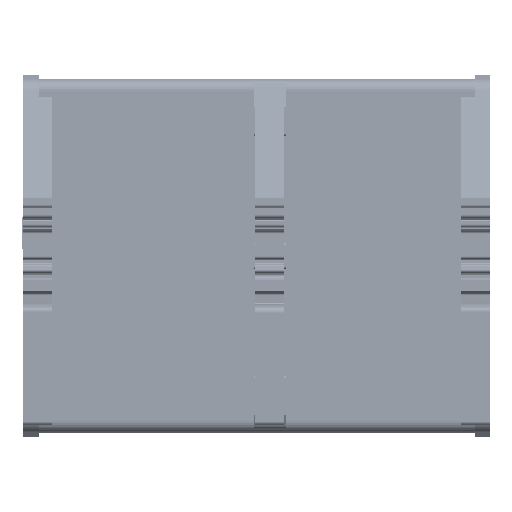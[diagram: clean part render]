
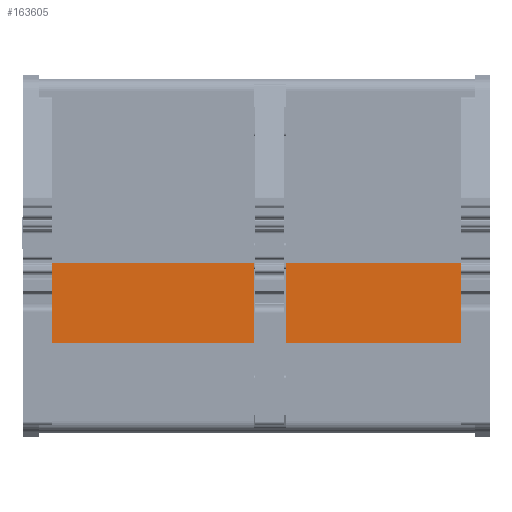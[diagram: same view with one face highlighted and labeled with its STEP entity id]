
A CAD part, front view. The second image highlights one B-rep face of the part: STEP entity #163605.
In plain terms, the highlighted planar face has unit normal (0, -1, 0).
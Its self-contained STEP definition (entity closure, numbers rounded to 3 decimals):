
#158023=DIRECTION('',(1.,0.,0.));
#158024=VECTOR('',#158023,29.5);
#158025=CARTESIAN_POINT('',(0.574,-17.,-153.5));
#158026=LINE('',#158025,#158024);
#159344=DIRECTION('',(-1.,0.,0.));
#159345=VECTOR('',#159344,29.5);
#159346=CARTESIAN_POINT('',(30.074,-17.,1.));
#159347=LINE('',#159346,#159345);
#160018=DIRECTION('',(0.,0.,1.));
#160019=VECTOR('',#160018,154.5);
#160020=CARTESIAN_POINT('',(30.074,-17.,-153.5));
#160021=LINE('',#160020,#160019);
#160022=DIRECTION('',(0.,0.,1.));
#160023=VECTOR('',#160022,154.5);
#160024=CARTESIAN_POINT('',(0.574,-17.,-153.5));
#160025=LINE('',#160024,#160023);
#160396=CARTESIAN_POINT('',(0.574,-17.,-153.5));
#160397=VERTEX_POINT('',#160396);
#160398=CARTESIAN_POINT('',(30.074,-17.,-153.5));
#160399=VERTEX_POINT('',#160398);
#161008=CARTESIAN_POINT('',(30.074,-17.,1.));
#161009=VERTEX_POINT('',#161008);
#161010=CARTESIAN_POINT('',(0.574,-17.,1.));
#161011=VERTEX_POINT('',#161010);
#163593=CARTESIAN_POINT('',(0.574,-17.,0.));
#163594=DIRECTION('',(0.,-1.,0.));
#163595=DIRECTION('',(1.,0.,0.));
#163596=AXIS2_PLACEMENT_3D('',#163593,#163594,#163595);
#163597=PLANE('',#163596);
#163598=ORIENTED_EDGE('',*,*,#161178,.F.);
#163600=ORIENTED_EDGE('',*,*,#163599,.T.);
#163601=ORIENTED_EDGE('',*,*,#161819,.F.);
#163602=ORIENTED_EDGE('',*,*,#163586,.F.);
#163603=EDGE_LOOP('',(#163598,#163600,#163601,#163602));
#163604=FACE_OUTER_BOUND('',#163603,.F.);
#163605=ADVANCED_FACE('',(#163604),#163597,.T.);
#161178=EDGE_CURVE('',#160397,#160399,#158026,.T.);
#161819=EDGE_CURVE('',#161009,#161011,#159347,.T.);
#163586=EDGE_CURVE('',#160399,#161009,#160021,.T.);
#163599=EDGE_CURVE('',#160397,#161011,#160025,.T.);
